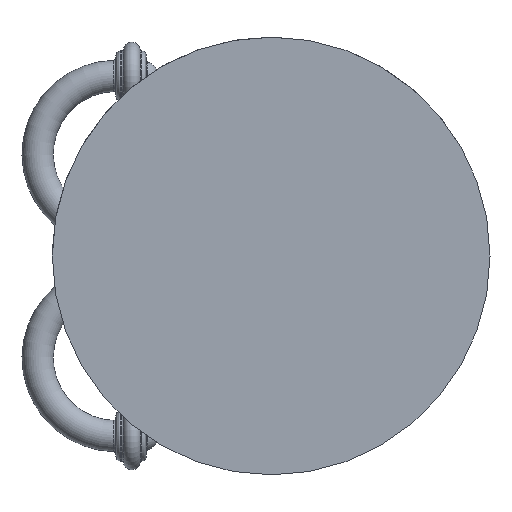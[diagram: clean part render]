
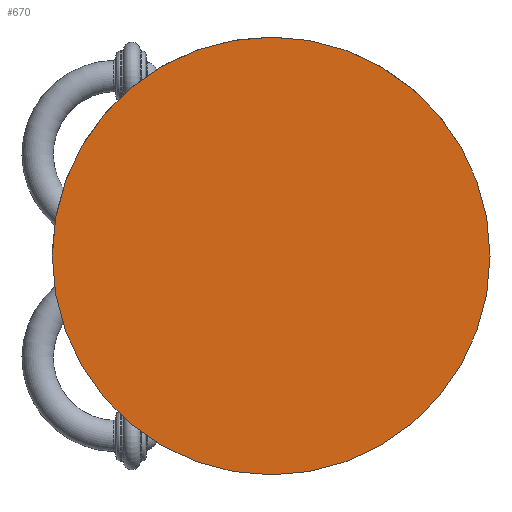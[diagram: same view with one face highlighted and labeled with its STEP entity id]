
A CAD part, front view. The second image highlights one B-rep face of the part: STEP entity #670.
In plain terms, the highlighted planar face has unit normal (0, -1, 0).
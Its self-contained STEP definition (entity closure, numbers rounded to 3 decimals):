
#6=CARTESIAN_POINT('',(0.,0.,0.));
#7=DIRECTION('',(0.,-1.,0.));
#8=DIRECTION('',(1.,0.,0.));
#9=AXIS2_PLACEMENT_3D('',#6,#7,#8);
#242=CARTESIAN_POINT('',(0.,0.,0.));
#243=DIRECTION('',(0.,1.,0.));
#244=DIRECTION('',(1.,0.,0.));
#245=AXIS2_PLACEMENT_3D('',#242,#243,#244);
#585=CARTESIAN_POINT('',(35.,0.,0.));
#586=CARTESIAN_POINT('',(-35.,0.,0.));
#587=VERTEX_POINT('',#585);
#588=VERTEX_POINT('',#586);
#659=CARTESIAN_POINT('',(0.,0.,0.));
#660=DIRECTION('',(0.,-1.,0.));
#661=DIRECTION('',(-1.,0.,0.));
#662=AXIS2_PLACEMENT_3D('',#659,#660,#661);
#663=PLANE('',#662);
#665=ORIENTED_EDGE('',*,*,#664,.T.);
#667=ORIENTED_EDGE('',*,*,#666,.F.);
#668=EDGE_LOOP('',(#665,#667));
#669=FACE_OUTER_BOUND('',#668,.F.);
#670=ADVANCED_FACE('',(#669),#663,.T.);
#10=CIRCLE('',#9,35.);
#246=CIRCLE('',#245,35.);
#664=EDGE_CURVE('',#587,#588,#246,.T.);
#666=EDGE_CURVE('',#587,#588,#10,.T.);
